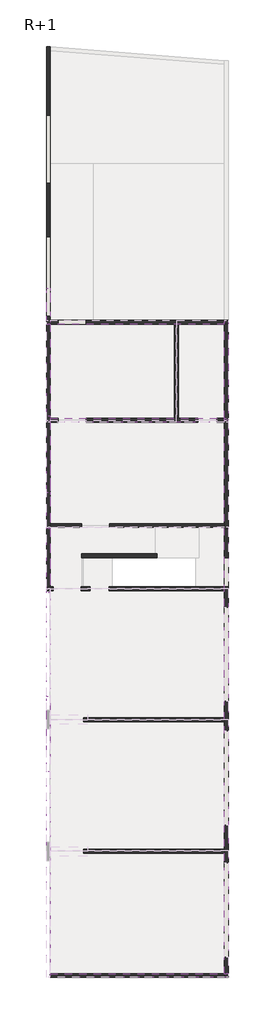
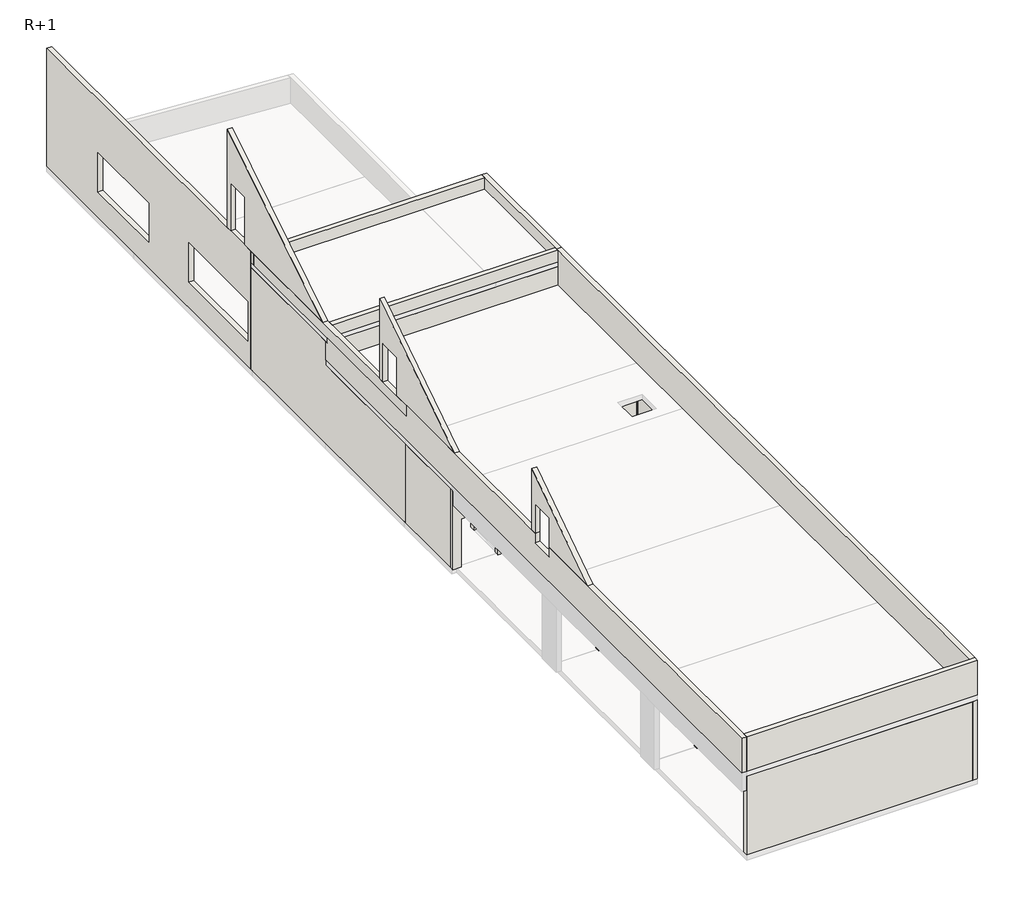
# One storey, part 1 of 2: 24 walls.
"""IFC4 building model written with IfcOpenShell, lengths in millimetres."""

from ifc_helpers import new_model, si_unit, frame, origin, place, context, project, spatial, polyline, outline, extrude, faceted_brep, element, save

model = new_model("IFC4")

# Units and contexts
model_context = context("Model", 3, world=origin())
ifc_project = project(units=[si_unit("LENGTHUNIT", "METRE", prefix="MILLI")], contexts=[model_context])

# Site, building, storey
site = spatial("IfcSite", under=ifc_project)
building = spatial("IfcBuilding", under=site)
storey = spatial("IfcBuildingStorey", under=building, Name="R+1", Elevation=3430.0)

# Walls
placement = place(None, origin())
element("IfcWall", 1, ObjectType="20 cm - Béton Armé C25/30 (2)", at=placement, inside=storey, context=model_context, shape_type="Brep", body=[
    faceted_brep([(30539.0482779, 60949.8020814, 3430.0), (37139.0482776, 60949.8020814, 3430.0), (37239.0482776, 60949.8020814, 3430.0), (37339.0482776, 60949.8020814, 3430.0), (39789.0482781, 60949.8020814, 3430.0), (39989.0482781, 60949.8020814, 3430.0), (39989.0482781, 60949.8020814, 7850.0), (39789.0482781, 60949.8020814, 7850.0), (37339.0482776, 60949.8020814, 7850.0), (37239.0482776, 60949.8020814, 7850.0), (30539.0482779, 60949.8020814, 7850.0), (30964.0482779, 60949.8020814, 5860.0), (32454.0482779, 60949.8020814, 5860.0), (32454.0482779, 60949.8020814, 3780.0), (30964.0482779, 60949.8020814, 3780.0), (36193.9305211, 60949.8020814, 5030.0), (36193.9305211, 60949.8020814, 6230.0), (37093.9305211, 60949.8020814, 6230.0), (37093.9305211, 60949.8020814, 5030.0), (39989.0482781, 61149.8020814, 3430.0), (39789.0482781, 61149.8020814, 3430.0), (30539.0482779, 61149.8020814, 3430.0), (30539.0482779, 61149.8020814, 7850.0), (37239.0482776, 61149.8020814, 7850.0), (39989.0482781, 61149.8020814, 7850.0), (39989.0482781, 61149.8020814, 4530.0), (30964.0482779, 61149.8020814, 5860.0), (30964.0482779, 61149.8020814, 3780.0), (32454.0482779, 61149.8020814, 3780.0), (32454.0482779, 61149.8020814, 5860.0), (36193.9305211, 61149.8020814, 6230.0), (36193.9305211, 61149.8020814, 5030.0), (37093.9305211, 61149.8020814, 5030.0), (37093.9305211, 61149.8020814, 6230.0), (39989.0482781, 61049.8020814, 3430.0)], [[[0, 1, 2, 3, 4, 5, 6, 7, 8, 9, 10], [11, 12, 13, 14], [15, 16, 17, 18]], [[19, 20, 21, 22, 23, 24, 25], [26, 27, 28, 29], [30, 31, 32, 33]], [[5, 4, 3, 2, 1, 0, 21, 20, 19, 34]], [[0, 10, 22, 21]], [[27, 26, 11, 14]], [[28, 27, 14, 13]], [[29, 28, 13, 12]], [[26, 29, 12, 11]], [[5, 34, 19, 25, 24, 6]], [[10, 9, 23, 22]], [[9, 8, 7, 6, 24, 23]], [[30, 16, 15, 31]], [[32, 18, 17, 33]], [[30, 33, 17, 16]], [[31, 15, 18, 32]]]),
])
element("IfcWall", 2, ObjectType="20 cm - Béton Armé C25/30 (2)", at=placement, inside=storey, context=model_context, shape_type="Brep", body=[
    faceted_brep([(39789.0482781, 50079.8020815, 3430.0), (39789.0482781, 47029.8020813, 3430.0), (39789.0482781, 46829.8020813, 3430.0), (39789.0482781, 40099.8020813, 3430.0), (39789.0482781, 39899.8020813, 3430.0), (39789.0482781, 33129.8020807, 3430.0), (39789.0482781, 32929.8020807, 3430.0), (39789.0482781, 26549.8020807, 3430.0), (39789.0482781, 26349.8020807, 3430.0), (39789.0482781, 26349.8020807, 6830.0), (39789.0482781, 26549.8020807, 6830.0), (39789.0482781, 32929.8020807, 6830.0), (39789.0482781, 33069.8020807, 6830.0), (39789.0482781, 33129.8020807, 6830.0), (39789.0482781, 39899.8020813, 6830.0), (39789.0482781, 40099.8020813, 6830.0), (39789.0482781, 46829.8020813, 6830.0), (39789.0482781, 47029.8020813, 6830.0), (39789.0482781, 50079.8020815, 6830.0), (39789.0482781, 32416.8519337, 6230.0), (39789.0482781, 27416.8519337, 6230.0), (39789.0482781, 27416.8519337, 4530.0), (39789.0482781, 32416.8519337, 4530.0), (39789.0482781, 39416.8519337, 6230.0), (39789.0482781, 34416.8519337, 6230.0), (39789.0482781, 34416.8519337, 4530.0), (39789.0482781, 39416.8519337, 4530.0), (39789.0482781, 45965.8270075, 6230.0), (39789.0482781, 40965.8270075, 6230.0), (39789.0482781, 40965.8270075, 4530.0), (39789.0482781, 45965.8270075, 4530.0), (39789.0482781, 48579.8020813, 6230.0), (39789.0482781, 47029.8020813, 6230.0), (39789.0482781, 47029.8020813, 4530.0), (39789.0482781, 48579.8020813, 4530.0), (39989.0482781, 50079.8020815, 3430.0), (39989.0482781, 50079.8020815, 6830.0), (39989.0482781, 46929.8020813, 6830.0), (39989.0482781, 39999.8020813, 6830.0), (39989.0482781, 33069.8020807, 6830.0), (39989.0482781, 26349.8020807, 6830.0), (39989.0482781, 26349.8020807, 3430.0), (39989.0482781, 33029.8020807, 3430.0), (39989.0482781, 39999.8020813, 3430.0), (39989.0482781, 46929.8020813, 3430.0), (39989.0482781, 32416.8519337, 6230.0), (39989.0482781, 32416.8519337, 4530.0), (39989.0482781, 27416.8519337, 4530.0), (39989.0482781, 27416.8519337, 6230.0), (39989.0482781, 39416.8519337, 6230.0), (39989.0482781, 39416.8519337, 4530.0), (39989.0482781, 34416.8519337, 4530.0), (39989.0482781, 34416.8519337, 6230.0), (39989.0482781, 45965.8270075, 6230.0), (39989.0482781, 45965.8270075, 4530.0), (39989.0482781, 40965.8270075, 4530.0), (39989.0482781, 40965.8270075, 6230.0), (39989.0482781, 48579.8020813, 6230.0), (39989.0482781, 48579.8020813, 4530.0), (39989.0482781, 47029.8020813, 4530.0), (39989.0482781, 47029.8020813, 6230.0)], [[[0, 1, 2, 3, 4, 5, 6, 7, 8, 9, 10, 11, 12, 13, 14, 15, 16, 17, 18], [19, 20, 21, 22], [23, 24, 25, 26], [27, 28, 29, 30], [31, 32, 33, 34]], [[35, 36, 37, 38, 39, 40, 41, 42, 43, 44], [45, 46, 47, 48], [49, 50, 51, 52], [53, 54, 55, 56], [57, 58, 59, 60]], [[8, 7, 6, 5, 4, 3, 2, 1, 0, 35, 44, 43, 42, 41]], [[0, 18, 36, 35]], [[46, 45, 19, 22]], [[47, 46, 22, 21]], [[48, 47, 21, 20]], [[45, 48, 20, 19]], [[50, 49, 23, 26]], [[51, 50, 26, 25]], [[52, 51, 25, 24]], [[49, 52, 24, 23]], [[54, 53, 27, 30]], [[55, 54, 30, 29]], [[56, 55, 29, 28]], [[53, 56, 28, 27]], [[58, 57, 31, 34]], [[59, 58, 34, 33]], [[60, 59, 33, 32]], [[57, 60, 32, 31]], [[18, 17, 16, 15, 14, 13, 12, 39, 38, 37, 36]], [[9, 8, 41, 40]], [[12, 11, 10, 9, 40, 39]]]),
])
element("IfcWall", 3, ObjectType="20 cm - Béton Armé C25/30 (2)", at=placement, inside=storey, context=model_context, shape_type="Brep", body=[
    faceted_brep([(39789.0482781, 26549.8020807, 3430.0), (30539.0482779, 26549.8020807, 3430.0), (30539.0482779, 26549.8020807, 6830.0), (39789.0482781, 26549.8020807, 6830.0), (39789.0482781, 26349.8020807, 3430.0), (39789.0482781, 26349.8020807, 6830.0), (30539.0482779, 26349.8020807, 6830.0), (30539.0482779, 26349.8020807, 6230.0), (30539.0482779, 26349.8020807, 3430.0)], [[[0, 1, 2, 3]], [[4, 5, 6, 7, 8]], [[1, 0, 4, 8]], [[2, 1, 8, 7, 6]], [[0, 3, 5, 4]], [[3, 2, 6, 5]]]),
])
element("IfcWall", 4, ObjectType="20 cm - Béton Armé C25/30 (2)", at=placement, inside=storey, context=model_context, shape_type="Brep", body=[
    faceted_brep([(32199.0482779, 48579.8020815, 3430.0), (36089.0482771, 48579.8020815, 3430.0), (36189.0482771, 48579.8020815, 3430.0), (36189.0482771, 48579.8020815, 6830.0), (32199.0482779, 48579.8020815, 6830.0), (32199.0482779, 48779.8020815, 3430.0), (32199.0482779, 48779.8020815, 6830.0), (36189.0482771, 48779.8020815, 6830.0), (36189.0482771, 48779.8020815, 3430.0)], [[[0, 1, 2, 3, 4]], [[5, 6, 7, 8]], [[2, 1, 0, 5, 8]], [[3, 2, 8, 7]], [[0, 4, 6, 5]], [[4, 3, 7, 6]]]),
])
element("IfcWall", 5, ObjectType="20 cm - Béton Armé C25/30 (2)", at=placement, inside=storey, context=model_context, shape_type="Brep", body=[
    faceted_brep([(32179.0481598, 46829.8020813, 3430.0), (32649.0480416, 46829.8020813, 3430.0), (32649.0480416, 46829.8020813, 5510.0), (33649.0480416, 46829.8020813, 5510.0), (33649.0480416, 46829.8020813, 3430.0), (39789.0482781, 46829.8020813, 3430.0), (39789.0482781, 46829.8020813, 6830.0), (30539.0482779, 46829.8020813, 6830.0), (30339.0482779, 46829.8020813, 6830.0), (30339.0482779, 46829.8020813, 6230.0), (30339.0482779, 46829.8020813, 3430.0), (30689.0481598, 46829.8020813, 3430.0), (30689.0481598, 46829.8020813, 5510.0), (32179.0481598, 46829.8020813, 5510.0), (32649.0480416, 47029.8020813, 5510.0), (32649.0480416, 47029.8020813, 3430.0), (32299.048278, 47029.8020813, 3430.0), (32199.048278, 47029.8020813, 3430.0), (32179.0481598, 47029.8020813, 3430.0), (32179.0481598, 47029.8020813, 5510.0), (30689.0481598, 47029.8020813, 5510.0), (30689.0481598, 47029.8020813, 3430.0), (30539.0482779, 47029.8020813, 3430.0), (30339.0482779, 47029.8020813, 3430.0), (30339.0482779, 47029.8020813, 6830.0), (30539.0482779, 47029.8020813, 6830.0), (39789.0482781, 47029.8020813, 6830.0), (39789.0482781, 47029.8020813, 6230.0), (39789.0482781, 47029.8020813, 4530.0), (39789.0482781, 47029.8020813, 3430.0), (38279.048278, 47029.8020813, 3430.0), (33809.048278, 47029.8020813, 3430.0), (33649.0480416, 47029.8020813, 3430.0), (33649.0480416, 47029.8020813, 5510.0), (30339.0482779, 46929.8020813, 3430.0), (39789.0482781, 46929.8020813, 6830.0), (30339.0482779, 46929.8020813, 6830.0), (30539.0482779, 46929.8020813, 6830.0)], [[[0, 1, 2, 3, 4, 5, 6, 7, 8, 9, 10, 11, 12, 13]], [[14, 15, 16, 17, 18, 19, 20, 21, 22, 23, 24, 25, 26, 27, 28, 29, 30, 31, 32, 33]], [[10, 34, 23, 22, 21, 11]], [[32, 31, 30, 29, 5, 4]], [[18, 17, 16, 15, 1, 0]], [[6, 5, 29, 28, 27, 26, 35]], [[10, 9, 8, 36, 24, 23, 34]], [[13, 19, 18, 0]], [[19, 13, 12, 20]], [[20, 12, 11, 21]], [[4, 3, 33, 32]], [[2, 1, 15, 14]], [[3, 2, 14, 33]], [[26, 25, 37, 35]], [[8, 7, 37, 36]], [[25, 24, 36, 37]], [[7, 6, 35, 37]]]),
])
element("IfcWall", 6, ObjectType="20 cm - Béton Armé C25/30 (2)", at=placement, inside=storey, context=model_context, shape_type="SweptSolid", body=[
    extrude(outline(polyline([(39899.8020813, 3430.0), (39899.8020813, 6830.0), (39999.8020813, 6830.0), (40099.8020813, 6830.0), (40099.8020813, 3430.0), (39899.8020813, 3430.0)])), frame((32299.048278, 0.0, 0.0), z_axis=(1.0, 0.0, 0.0), x_axis=(0.0, 1.0, 0.0)), (0.0, 0.0, 1.0), 7490.0000001),
])
element("IfcWall", 7, ObjectType="20 cm - Béton Armé C25/30 (2)", at=placement, inside=storey, context=model_context, shape_type="SweptSolid", body=[
    extrude(outline(polyline([(39789.0482781, 32929.8020807), (32299.048278, 32929.8020807), (32299.048278, 33129.8020807), (39789.0482781, 33129.8020807), (39789.0482781, 32929.8020807)])), frame((0.0, 0.0, 3430.0), z_axis=(0.0, 0.0, 1.0), x_axis=(1.0, 0.0, 0.0)), (0.0, 0.0, 1.0), 3400.0),
])
element("IfcWall", 8, ObjectType="20 cm - Béton Armé C25/30 (2)", at=placement, inside=storey, context=model_context, shape_type="SweptSolid", body=[
    extrude(outline(polyline([(30539.0482779, 50179.8020815), (30539.0482779, 47029.8020813), (30339.0482779, 47029.8020813), (30339.0482779, 50179.8020815), (30539.0482779, 50179.8020815)])), frame((0.0, 0.0, 3430.0), z_axis=(0.0, 0.0, 1.0), x_axis=(1.0, 0.0, 0.0)), (0.0, 0.0, 1.0), 3400.0),
])
element("IfcWall", 9, ObjectType="20 cm - Béton Armé C25/30 (2)", at=placement, inside=storey, context=model_context, shape_type="Brep", body=[
    faceted_brep([(39369.0482776, 55749.8020814, 5510.0), (39369.0482776, 55749.8020814, 3430.0), (39789.0482781, 55749.8020814, 3430.0), (39789.0482781, 55749.8020814, 7850.0), (37239.0482776, 55749.8020814, 7850.0), (30539.0482779, 55749.8020814, 7850.0), (30539.0482779, 55749.8020814, 3430.0), (30949.0481598, 55749.8020814, 3430.0), (30949.0481598, 55749.8020814, 5510.0), (32439.0481598, 55749.8020814, 5510.0), (32439.0481598, 55749.8020814, 3430.0), (38369.0482776, 55749.8020814, 3430.0), (38369.0482776, 55749.8020814, 5510.0), (39369.0482776, 55949.8020814, 3430.0), (39369.0482776, 55949.8020814, 5510.0), (38369.0482776, 55949.8020814, 5510.0), (38369.0482776, 55949.8020814, 3430.0), (37239.0482776, 55949.8020814, 3430.0), (37139.0482776, 55949.8020814, 3430.0), (32439.0481598, 55949.8020814, 3430.0), (32439.0481598, 55949.8020814, 5510.0), (30949.0481598, 55949.8020814, 5510.0), (30949.0481598, 55949.8020814, 3430.0), (30539.0482779, 55949.8020814, 3430.0), (30539.0482779, 55949.8020814, 7850.0), (37239.0482776, 55949.8020814, 7850.0), (37339.0482776, 55949.8020814, 7850.0), (39789.0482781, 55949.8020814, 7850.0), (39789.0482781, 55949.8020814, 7050.0), (39789.0482781, 55949.8020814, 3430.0), (30539.0482779, 55849.8020814, 7850.0)], [[[0, 1, 2, 3, 4, 5, 6, 7, 8, 9, 10, 11, 12]], [[13, 14, 15, 16, 17, 18, 19, 20, 21, 22, 23, 24, 25, 26, 27, 28, 29]], [[1, 13, 29, 2]], [[16, 11, 10, 19, 18, 17]], [[6, 23, 22, 7]], [[1, 0, 14, 13]], [[12, 11, 16, 15]], [[0, 12, 15, 14]], [[9, 20, 19, 10]], [[20, 9, 8, 21]], [[21, 8, 7, 22]], [[3, 2, 29, 28, 27]], [[6, 5, 30, 24, 23]], [[3, 27, 26, 25, 4]], [[25, 24, 30, 5, 4]]]),
])
element("IfcWall", 10, ObjectType="20 cm - Béton Armé C25/30 (2)", at=placement, inside=storey, context=model_context, shape_type="SweptSolid", body=[
    extrude(outline(polyline([(3700.0, 37339.0482776), (7850.0, 37339.0482776), (7850.0, 37239.0482776), (6830.0, 37239.0482776), (6830.0, 37139.0482776), (3700.0, 37139.0482776), (3700.0, 37339.0482776)])), frame((0.0, 55949.8020814, 0.0), z_axis=(0.0, 1.0, 0.0), x_axis=(0.0, 0.0, 1.0)), (0.0, 0.0, 1.0), 5000.0),
])
element("IfcWall", 11, ObjectType="20 cm - Béton Armé C25/30 (2)", at=placement, inside=storey, context=model_context, shape_type="SweptSolid", body=[
    extrude(outline(polyline([(3430.0, 39789.0482781), (6830.0, 39789.0482781), (6830.0, 30539.0482779), (3430.0, 30539.0482779), (3430.0, 32209.048278), (5510.0, 32209.048278), (5510.0, 33699.048278), (3430.0, 33699.048278), (3430.0, 39789.0482781)])), frame((0.0, 50179.8020815, 0.0), z_axis=(0.0, 1.0, 0.0), x_axis=(0.0, 0.0, 1.0)), (0.0, 0.0, 1.0), 200.0),
])
element("IfcWall", 12, ObjectType="20 cm - Béton Armé C25/30 (2)", at=placement, inside=storey, context=model_context, shape_type="Brep", body=[
    faceted_brep([(30539.0482779, 61149.8020814, 8550.0), (30539.0482779, 61149.8020814, 7850.0), (30539.0482779, 61149.8020814, 3430.0), (30539.0482779, 75429.3871104, 3430.0), (30539.0482779, 75630.0113589, 3430.0), (30539.0482779, 75630.0113589, 4530.0), (30539.0482779, 75630.0113589, 8550.0), (30539.0482779, 62834.7694586, 8550.0), (30539.0482779, 62597.2423534, 8550.0), (30539.0482779, 61597.2423534, 8550.0), (30539.0482779, 65569.8020814, 6230.0), (30539.0482779, 65569.8020814, 4530.0), (30539.0482779, 61369.8020814, 4530.0), (30539.0482779, 61369.8020814, 6230.0), (30539.0482779, 72007.8019847, 6230.0), (30539.0482779, 72007.8019847, 4530.0), (30539.0482779, 68407.8019847, 4530.0), (30539.0482779, 68407.8019847, 6230.0), (30339.0482779, 61149.8020814, 3430.0), (30339.0482779, 61149.8020814, 7850.0), (30339.0482779, 61149.8020814, 8050.0), (30339.0482779, 61149.8020814, 8550.0), (30339.0482779, 61597.2423534, 8550.0), (30339.0482779, 62597.2423534, 8550.0), (30339.0482779, 62834.7694586, 8550.0), (30339.0482779, 75645.8255641, 8550.0), (30339.0482779, 75645.8255641, 3430.0), (30339.0482779, 69449.8020814, 3430.0), (30339.0482779, 65569.8020814, 6230.0), (30339.0482779, 61369.8020814, 6230.0), (30339.0482779, 61369.8020814, 4530.0), (30339.0482779, 65569.8020814, 4530.0), (30339.0482779, 72007.8019847, 6230.0), (30339.0482779, 68407.8019847, 6230.0), (30339.0482779, 68407.8019847, 4530.0), (30339.0482779, 72007.8019847, 4530.0)], [[[0, 1, 2, 3, 4, 5, 6, 7, 8, 9], [10, 11, 12, 13], [14, 15, 16, 17]], [[18, 19, 20, 21, 22, 23, 24, 25, 26, 27], [28, 29, 30, 31], [32, 33, 34, 35]], [[4, 3, 2, 18, 27, 26]], [[0, 9, 8, 7, 6, 25, 24, 23, 22, 21]], [[11, 10, 28, 31]], [[12, 11, 31, 30]], [[13, 12, 30, 29]], [[10, 13, 29, 28]], [[15, 14, 32, 35]], [[16, 15, 35, 34]], [[17, 16, 34, 33]], [[14, 17, 33, 32]], [[6, 5, 4, 26, 25]], [[0, 21, 20, 19, 18, 2, 1]]]),
])
element("IfcWall", 13, ObjectType="Acrotère 20 cm - Béton Armé C25/30 (2)", at=placement, inside=storey, context=model_context, shape_type="Brep", body=[
    faceted_brep([(30539.0482779, 26349.8020807, 7050.0), (39989.0482781, 26349.8020807, 7050.0), (39989.0482781, 26349.8020807, 8550.0), (30539.0482779, 26349.8020807, 8550.0), (30539.0482779, 26549.8020807, 7050.0), (30539.0482779, 26549.8020807, 8550.0), (39789.0482781, 26549.8020807, 8550.0), (39989.0482781, 26549.8020807, 8550.0), (39989.0482781, 26549.8020807, 7050.0), (39789.0482781, 26549.8020807, 7050.0)], [[[0, 1, 2, 3]], [[4, 5, 6, 7, 8, 9]], [[1, 0, 4, 9, 8]], [[3, 2, 7, 6, 5]], [[2, 1, 8, 7]], [[0, 3, 5, 4]]]),
])
element("IfcWall", 14, ObjectType="Acrotère 20 cm - Béton Armé C25/30 (2)", at=placement, inside=storey, context=model_context, shape_type="Brep", body=[
    faceted_brep([(39989.0482781, 26549.8020807, 7050.0), (39989.0482781, 33069.8020807, 7050.0), (39989.0482781, 39999.8020813, 7050.0), (39989.0482781, 46929.8020813, 7050.0), (39989.0482781, 50179.8020815, 7050.0), (39989.0482781, 55849.8020814, 7050.0), (39989.0482781, 55949.8020814, 7050.0), (39989.0482781, 55949.8020814, 7850.0), (39989.0482781, 55749.8020814, 7850.0), (39989.0482781, 55749.8020814, 8050.0), (39989.0482781, 55849.8020814, 8050.0), (39989.0482781, 55849.8020814, 8550.0), (39989.0482781, 26549.8020807, 8550.0), (39789.0482781, 55949.8020814, 7050.0), (39789.0482781, 55849.8020814, 7050.0), (39789.0482781, 26549.8020807, 7050.0), (39789.0482781, 26549.8020807, 8550.0), (39789.0482781, 55749.8020814, 8550.0), (39789.0482781, 55849.8020814, 8550.0), (39789.0482781, 55849.8020814, 8050.0), (39789.0482781, 55749.8020814, 8050.0), (39789.0482781, 55749.8020814, 7850.0), (39789.0482781, 55949.8020814, 7850.0)], [[[0, 1, 2, 3, 4, 5, 6, 7, 8, 9, 10, 11, 12]], [[13, 14, 15, 16, 17, 18, 19, 20, 21, 22]], [[6, 5, 4, 3, 2, 1, 0, 15, 14, 13]], [[12, 11, 18, 17, 16]], [[0, 12, 16, 15]], [[6, 13, 22, 7]], [[21, 8, 7, 22]], [[9, 20, 19, 10]], [[8, 21, 20, 9]], [[18, 11, 10, 19]]]),
])
element("IfcWall", 15, ObjectType="Acrotère 20 cm - Béton Armé C25/30 (2)", at=placement, inside=storey, context=model_context, shape_type="Brep", body=[
    faceted_brep([(30539.0482779, 26349.8020807, 7050.0), (30539.0482779, 26549.8020807, 7050.0), (30539.0482779, 46929.8020813, 7050.0), (30539.0482779, 55849.8020814, 7050.0), (30539.0482779, 55849.8020814, 7850.0), (30539.0482779, 55749.8020814, 7850.0), (30539.0482779, 55749.8020814, 8050.0), (30539.0482779, 50119.2126296, 8050.0), (30539.0482779, 50119.2126296, 8550.0), (30539.0482779, 46718.0537448, 8550.0), (30539.0482779, 41234.7694586, 8550.0), (30539.0482779, 41001.8072775, 8550.0), (30539.0482779, 41001.8072775, 8140.0), (30539.0482779, 40001.8072775, 8140.0), (30539.0482779, 40001.8072775, 8550.0), (30539.0482779, 37252.0468519, 8550.0), (30539.0482779, 26549.8020807, 8550.0), (30539.0482779, 26349.8020807, 8550.0), (30339.0482779, 55849.8020814, 7050.0), (30339.0482779, 50179.8020815, 7050.0), (30339.0482779, 46929.8020813, 7050.0), (30339.0482779, 26349.8020807, 7050.0), (30339.0482779, 26349.8020807, 8550.0), (30339.0482779, 37252.0468519, 8550.0), (30339.0482779, 40001.8072775, 8550.0), (30339.0482779, 40001.8072775, 8140.0), (30339.0482779, 41001.8072775, 8140.0), (30339.0482779, 41001.8072775, 8550.0), (30339.0482779, 41234.7694586, 8550.0), (30339.0482779, 46718.0537448, 8550.0), (30339.0482779, 50119.2126296, 8550.0), (30339.0482779, 50119.2126296, 8050.0), (30339.0482779, 55749.8020814, 8050.0), (30339.0482779, 55749.8020814, 7850.0), (30339.0482779, 55849.8020814, 7850.0)], [[[0, 1, 2, 3, 4, 5, 6, 7, 8, 9, 10, 11, 12, 13, 14, 15, 16, 17]], [[18, 19, 20, 21, 22, 23, 24, 25, 26, 27, 28, 29, 30, 31, 32, 33, 34]], [[0, 17, 22, 21]], [[31, 7, 6, 32]], [[7, 31, 30, 8]], [[3, 2, 1, 0, 21, 20, 19, 18]], [[3, 18, 34, 4]], [[12, 11, 27, 26]], [[13, 12, 26, 25]], [[14, 13, 25, 24]], [[17, 16, 15, 14, 24, 23, 22]], [[27, 11, 10, 9, 8, 30, 29, 28]], [[33, 5, 4, 34]], [[5, 33, 32, 6]]]),
])
element("IfcWall", 16, ObjectType="20 cm - Béton Armé C25/30 (2)", at=placement, inside=storey, context=model_context, shape_type="Brep", body=[
    faceted_brep([(39989.0482781, 50079.8020815, 3430.0), (39989.0482781, 50279.3020815, 3430.0), (39989.0482781, 55849.8020814, 3430.0), (39989.0482781, 60949.8020814, 3430.0), (39989.0482781, 60949.8020814, 7850.0), (39989.0482781, 55949.8020814, 7850.0), (39989.0482781, 55949.8020814, 7050.0), (39989.0482781, 55849.8020814, 7050.0), (39989.0482781, 55849.8020814, 6830.0), (39989.0482781, 50179.8020815, 6830.0), (39989.0482781, 50079.8020815, 6830.0), (39989.0482781, 59497.9320504, 5630.0), (39989.0482781, 59497.9320504, 6230.0), (39989.0482781, 60504.6843249, 6230.0), (39989.0482781, 60504.6843249, 5630.0), (39989.0482781, 50679.8663679, 5630.0), (39989.0482781, 50679.8663679, 6230.0), (39989.0482781, 51686.6186424, 6230.0), (39989.0482781, 51686.6186424, 5630.0), (39789.0482781, 60949.8020814, 3430.0), (39789.0482781, 55949.8020814, 3430.0), (39789.0482781, 55749.8020814, 3430.0), (39789.0482781, 50079.8020815, 3430.0), (39789.0482781, 50079.8020815, 6830.0), (39789.0482781, 50179.8020815, 6830.0), (39789.0482781, 55849.8020814, 6830.0), (39789.0482781, 55849.8020814, 7050.0), (39789.0482781, 55949.8020814, 7050.0), (39789.0482781, 55949.8020814, 7850.0), (39789.0482781, 60949.8020814, 7850.0), (39789.0482781, 59497.9320504, 6230.0), (39789.0482781, 59497.9320504, 5630.0), (39789.0482781, 60504.6843249, 5630.0), (39789.0482781, 60504.6843249, 6230.0), (39789.0482781, 50679.8663679, 6230.0), (39789.0482781, 50679.8663679, 5630.0), (39789.0482781, 51686.6186424, 5630.0), (39789.0482781, 51686.6186424, 6230.0)], [[[0, 1, 2, 3, 4, 5, 6, 7, 8, 9, 10], [11, 12, 13, 14], [15, 16, 17, 18]], [[19, 20, 21, 22, 23, 24, 25, 26, 27, 28, 29], [30, 31, 32, 33], [34, 35, 36, 37]], [[3, 2, 1, 0, 22, 21, 20, 19]], [[0, 10, 23, 22]], [[23, 10, 9, 24]], [[4, 3, 19, 29]], [[25, 8, 7, 26]], [[24, 9, 8, 25]], [[6, 27, 26, 7]], [[31, 30, 12, 11]], [[32, 31, 11, 14]], [[33, 32, 14, 13]], [[30, 33, 13, 12]], [[35, 34, 16, 15]], [[36, 35, 15, 18]], [[37, 36, 18, 17]], [[34, 37, 17, 16]], [[4, 29, 28, 5]], [[27, 6, 5, 28]]]),
])
element("IfcWall", 17, ObjectType="20 cm - Béton Armé C25/30 (2)", at=placement, inside=storey, context=model_context, shape_type="Brep", body=[
    faceted_brep([(30539.0482779, 50179.8020815, 3430.0), (30539.0482779, 55749.8020814, 3430.0), (30539.0482779, 55949.8020814, 3430.0), (30539.0482779, 60949.8020814, 3430.0), (30539.0482779, 61149.8020814, 3430.0), (30539.0482779, 61149.8020814, 7850.0), (30539.0482779, 60949.8020814, 7850.0), (30539.0482779, 55949.8020814, 7850.0), (30539.0482779, 55849.8020814, 7850.0), (30539.0482779, 55849.8020814, 7050.0), (30539.0482779, 55849.8020814, 6830.0), (30539.0482779, 50179.8020815, 6830.0), (30339.0482779, 50179.8020815, 3430.0), (30339.0482779, 50179.8020815, 6830.0), (30339.0482779, 55849.8020814, 6830.0), (30339.0482779, 55849.8020814, 7050.0), (30339.0482779, 55849.8020814, 7850.0), (30339.0482779, 61149.8020814, 7850.0), (30339.0482779, 61149.8020814, 3430.0), (30339.0482779, 61049.8020814, 3430.0), (30339.0482779, 55849.8020814, 3430.0), (30339.0482779, 50279.8020815, 3430.0)], [[[0, 1, 2, 3, 4, 5, 6, 7, 8, 9, 10, 11]], [[12, 13, 14, 15, 16, 17, 18, 19, 20, 21]], [[4, 3, 2, 1, 0, 12, 21, 20, 19, 18]], [[0, 11, 13, 12]], [[8, 16, 15, 14, 10, 9]], [[11, 10, 14, 13]], [[8, 7, 6, 5, 17, 16]], [[5, 4, 18, 17]]]),
])
element("IfcWall", 18, ObjectType="Acrotère 20 cm - Béton Armé C25/30 (3)", at=placement, inside=storey, context=model_context, shape_type="Brep", body=[
    faceted_brep([(39989.0482781, 61149.8020814, 8550.0), (39989.0482781, 55849.8020814, 8550.0), (39989.0482781, 55849.8020814, 8050.0), (39989.0482781, 61149.8020814, 8050.0), (39789.0482781, 55849.8020814, 8550.0), (39789.0482781, 55949.8020814, 8550.0), (39789.0482781, 60949.8020814, 8550.0), (39789.0482781, 61149.8020814, 8550.0), (39789.0482781, 61149.8020814, 8050.0), (39789.0482781, 60949.8020814, 8050.0), (39789.0482781, 55949.8020814, 8050.0), (39789.0482781, 55849.8020814, 8050.0)], [[[0, 1, 2, 3]], [[4, 5, 6, 7, 8, 9, 10, 11]], [[1, 0, 7, 6, 5, 4]], [[7, 0, 3, 8]], [[1, 4, 11, 2]], [[3, 2, 11, 10, 9, 8]]]),
])
element("IfcWall", 19, ObjectType="Acrotère 20 cm - Béton Armé C25/30 (3)", at=placement, inside=storey, context=model_context, shape_type="Brep", body=[
    faceted_brep([(39789.0482781, 61149.8020814, 8050.0), (37239.0482776, 61149.8020814, 8050.0), (30339.0482779, 61149.8020814, 8050.0), (30339.0482779, 61149.8020814, 8550.0), (30539.0482779, 61149.8020814, 8550.0), (39789.0482781, 61149.8020814, 8550.0), (39789.0482781, 60949.8020814, 8050.0), (39789.0482781, 60949.8020814, 8550.0), (30539.0482779, 60949.8020814, 8550.0), (30339.0482779, 60949.8020814, 8550.0), (30339.0482779, 60949.8020814, 8050.0), (30539.0482779, 60949.8020814, 8050.0)], [[[0, 1, 2, 3, 4, 5]], [[6, 7, 8, 9, 10, 11]], [[2, 1, 0, 6, 11, 10]], [[5, 4, 3, 9, 8, 7]], [[3, 2, 10, 9]], [[0, 5, 7, 6]]]),
])
element("IfcWall", 20, ObjectType="Acrotère 20 cm - Béton Armé C25/30 (3)", at=placement, inside=storey, context=model_context, shape_type="Brep", body=[
    faceted_brep([(30539.0482779, 50119.2126296, 8050.0), (30539.0482779, 55749.8020814, 8050.0), (30539.0482779, 55949.8020814, 8050.0), (30539.0482779, 60949.8020814, 8050.0), (30539.0482779, 60949.8020814, 8550.0), (30539.0482779, 56055.3413908, 8550.0), (30539.0482779, 55949.8020814, 8550.0), (30539.0482779, 55749.8020814, 8550.0), (30539.0482779, 52033.7694586, 8550.0), (30539.0482779, 51804.7890938, 8550.0), (30539.0482779, 50804.7890938, 8550.0), (30539.0482779, 50119.2126296, 8550.0), (30339.0482779, 50119.2126296, 8050.0), (30339.0482779, 50119.2126296, 8550.0), (30339.0482779, 50804.7890938, 8550.0), (30339.0482779, 51804.7890938, 8550.0), (30339.0482779, 52033.7694586, 8550.0), (30339.0482779, 56055.3413908, 8550.0), (30339.0482779, 60949.8020814, 8550.0), (30339.0482779, 60949.8020814, 8050.0), (30339.0482779, 55749.8020814, 8050.0)], [[[0, 1, 2, 3, 4, 5, 6, 7, 8, 9, 10, 11]], [[12, 13, 14, 15, 16, 17, 18, 19, 20]], [[3, 2, 1, 0, 12, 20, 19]], [[11, 10, 9, 8, 7, 6, 5, 4, 18, 17, 16, 15, 14, 13]], [[0, 11, 13, 12]], [[4, 3, 19, 18]]]),
])
element("IfcWall", 21, ObjectType="20 cm - Béton Armé C25/30 (2)", at=placement, inside=storey, context=model_context, shape_type="SweptSolid", body=[
    extrude(outline(polyline([(40001.8072775, 8550.0), (37252.0468519, 8550.0), (41234.7694586, 11208.1537351), (41234.7694586, 8550.0), (41001.8072775, 8550.0), (41001.8072775, 9825.0), (40001.8072775, 9825.0), (40001.8072775, 8550.0)])), frame((30339.0482779, 0.0, 0.0), z_axis=(1.0, 0.0, 0.0), x_axis=(0.0, 1.0, 0.0)), (0.0, 0.0, 1.0), 200.0),
])
element("IfcWall", 22, ObjectType="20 cm - Béton Armé C25/30 (2)", at=placement, inside=storey, context=model_context, shape_type="Brep", body=[
    faceted_brep([(30539.0482779, 50804.7890938, 8550.0), (30539.0482779, 50804.7890938, 10215.0), (30539.0482779, 51804.7890938, 10215.0), (30539.0482779, 51804.7890938, 8550.0), (30539.0482779, 52033.7694586, 8550.0), (30539.0482779, 52033.7694586, 12013.1967626), (30539.0482779, 46718.0537448, 8550.0), (30539.0482779, 50119.2126296, 8550.0), (30339.0482779, 50804.7890938, 8550.0), (30339.0482779, 50119.2126296, 8550.0), (30339.0482779, 46718.0537448, 8550.0), (30339.0482779, 52033.7694586, 12013.1967626), (30339.0482779, 52033.7694586, 8550.0), (30339.0482779, 51804.7890938, 8550.0), (30339.0482779, 51804.7890938, 10215.0), (30339.0482779, 50804.7890938, 10215.0)], [[[0, 1, 2, 3, 4, 5, 6, 7]], [[8, 9, 10, 11, 12, 13, 14, 15]], [[0, 7, 6, 10, 9, 8]], [[5, 4, 12, 11]], [[6, 5, 11, 10]], [[1, 0, 8, 15]], [[2, 1, 15, 14]], [[3, 2, 14, 13]], [[4, 3, 13, 12]]]),
])
element("IfcWall", 23, ObjectType="20 cm - Béton Armé C25/30 (2)", at=placement, inside=storey, context=model_context, shape_type="Brep", body=[
    faceted_brep([(30539.0482779, 61597.2423534, 8550.0), (30539.0482779, 61597.2423534, 10625.0), (30539.0482779, 62597.2423534, 10625.0), (30539.0482779, 62597.2423534, 8550.0), (30539.0482779, 62834.7694586, 8550.0), (30539.0482779, 62834.7694586, 12811.5946496), (30539.0482779, 56055.3413908, 8550.0), (30539.0482779, 60949.8020814, 8550.0), (30539.0482779, 61149.8020814, 8550.0), (30339.0482779, 61597.2423534, 8550.0), (30339.0482779, 61149.8020814, 8550.0), (30339.0482779, 60949.8020814, 8550.0), (30339.0482779, 56055.3413908, 8550.0), (30339.0482779, 62834.7694586, 12811.5946496), (30339.0482779, 62834.7694586, 8550.0), (30339.0482779, 62597.2423534, 8550.0), (30339.0482779, 62597.2423534, 10625.0), (30339.0482779, 61597.2423534, 10625.0)], [[[0, 1, 2, 3, 4, 5, 6, 7, 8]], [[9, 10, 11, 12, 13, 14, 15, 16, 17]], [[0, 8, 7, 6, 12, 11, 10, 9]], [[5, 4, 14, 13]], [[6, 5, 13, 12]], [[1, 0, 9, 17]], [[2, 1, 17, 16]], [[3, 2, 16, 15]], [[4, 3, 15, 14]]]),
])
element("IfcWall", 24, ObjectType="Acrotère 20 cm - Béton Armé C25/30 (3)", at=placement, inside=storey, context=model_context, shape_type="Brep", body=[
    faceted_brep([(39789.0482781, 55949.8020814, 8050.0), (30539.0482779, 55949.8020814, 8050.0), (30539.0482779, 55949.8020814, 8550.0), (39789.0482781, 55949.8020814, 8550.0), (39789.0482781, 55749.8020814, 8050.0), (39789.0482781, 55749.8020814, 8550.0), (30539.0482779, 55749.8020814, 8550.0), (30539.0482779, 55749.8020814, 8050.0), (39789.0482781, 55849.8020814, 8050.0), (39789.0482781, 55849.8020814, 8550.0)], [[[0, 1, 2, 3]], [[4, 5, 6, 7]], [[1, 0, 8, 4, 7]], [[3, 2, 6, 5, 9]], [[0, 3, 9, 5, 4, 8]], [[2, 1, 7, 6]]]),
])

save(model, "model.ifc")
